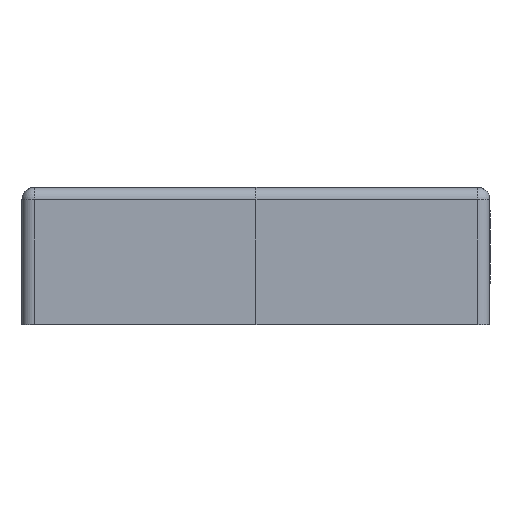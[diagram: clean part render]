
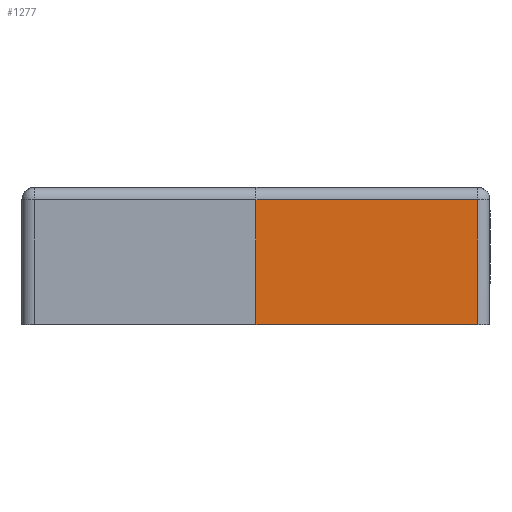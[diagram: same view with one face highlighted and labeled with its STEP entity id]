
A CAD part, front view. The second image highlights one B-rep face of the part: STEP entity #1277.
In plain terms, the highlighted planar face has unit normal (0, -1, -0.018).
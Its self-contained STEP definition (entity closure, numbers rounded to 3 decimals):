
#1277=ADVANCED_FACE('',(#2164),#1778,.F.);
#1778=PLANE('',#11370);
#2164=FACE_OUTER_BOUND('',#2730,.T.);
#2730=EDGE_LOOP('',(#4287,#4288,#4289,#4290));
#4287=ORIENTED_EDGE('',*,*,#7521,.T.);
#4288=ORIENTED_EDGE('',*,*,#8091,.T.);
#4289=ORIENTED_EDGE('',*,*,#8046,.T.);
#4290=ORIENTED_EDGE('',*,*,#8089,.T.);
#6413=VERTEX_POINT('',#15054);
#6414=VERTEX_POINT('',#15056);
#6782=VERTEX_POINT('',#16244);
#6783=VERTEX_POINT('',#16245);
#7521=EDGE_CURVE('',#6414,#6413,#9111,.T.);
#8046=EDGE_CURVE('',#6782,#6783,#9465,.T.);
#8089=EDGE_CURVE('',#6783,#6414,#9482,.T.);
#8091=EDGE_CURVE('',#6413,#6782,#9484,.T.);
#9111=LINE('',#15055,#10076);
#9465=LINE('',#16243,#10430);
#9482=LINE('',#16394,#10447);
#9484=LINE('',#16397,#10449);
#10076=VECTOR('',#12042,1.);
#10430=VECTOR('',#13012,1.);
#10447=VECTOR('',#13093,1.);
#10449=VECTOR('',#13097,1.);
#11370=AXIS2_PLACEMENT_3D('',#16398,#13098,#13099);
#12042=DIRECTION('',(1.,0.,0.));
#13012=DIRECTION('',(-1.,0.,0.));
#13093=DIRECTION('',(0.,0.017,-1.));
#13097=DIRECTION('',(0.,-0.017,1.));
#13098=DIRECTION('',(0.,1.,0.017));
#13099=DIRECTION('',(0.,-0.017,1.));
#15054=CARTESIAN_POINT('',(42.508,-172.436,-15.474));
#15055=CARTESIAN_POINT('',(28.758,-172.436,-15.474));
#15056=CARTESIAN_POINT('',(15.008,-172.436,-15.474));
#16243=CARTESIAN_POINT('',(28.758,-172.706,0.));
#16244=CARTESIAN_POINT('',(42.508,-172.706,0.));
#16245=CARTESIAN_POINT('',(15.008,-172.706,0.));
#16394=CARTESIAN_POINT('',(15.008,-172.571,-7.737));
#16397=CARTESIAN_POINT('',(42.508,-172.571,-7.737));
#16398=CARTESIAN_POINT('',(44.008,-172.706,0.029));
